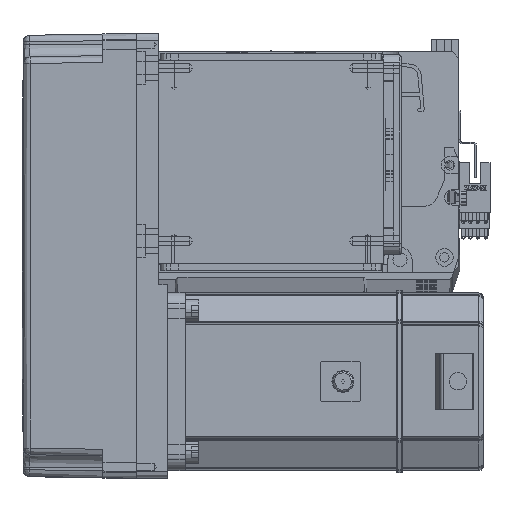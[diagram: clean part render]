
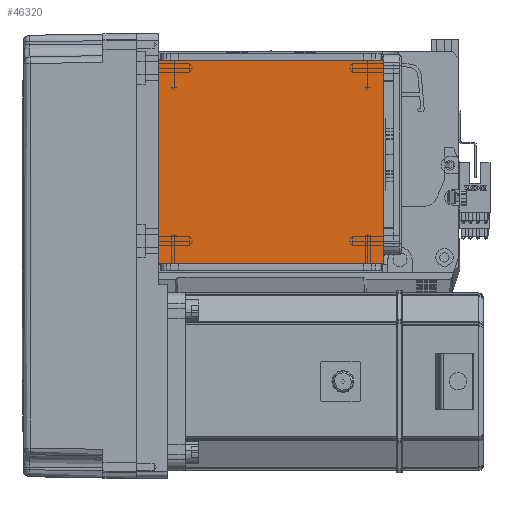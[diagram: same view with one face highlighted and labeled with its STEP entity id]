
A CAD part, top view. The second image highlights one B-rep face of the part: STEP entity #46320.
In plain terms, the highlighted planar face has unit normal (0, 0, 1).
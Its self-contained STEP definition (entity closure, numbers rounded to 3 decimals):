
#821 = LINE ( 'NONE', #69630, #29226 ) ;
#1015 = ORIENTED_EDGE ( 'NONE', *, *, #49851, .T. ) ;
#3757 = EDGE_CURVE ( 'NONE', #65342, #61236, #19986, .T. ) ;
#3800 = DIRECTION ( 'NONE',  ( 0., 1., 0. ) ) ;
#4756 = CARTESIAN_POINT ( 'NONE',  ( -50.5, 111.5, 115. ) ) ;
#7929 = LINE ( 'NONE', #42405, #13991 ) ;
#8192 = EDGE_CURVE ( 'NONE', #65342, #22361, #7929, .T. ) ;
#11988 = FACE_OUTER_BOUND ( 'NONE', #48849, .T. ) ;
#12349 = DIRECTION ( 'NONE',  ( -1., 0., 0. ) ) ;
#13991 = VECTOR ( 'NONE', #3800, 1000. ) ;
#16569 = DIRECTION ( 'NONE',  ( 0., -1., 0. ) ) ;
#19986 = LINE ( 'NONE', #67973, #65657 ) ;
#21415 = CARTESIAN_POINT ( 'NONE',  ( 50.5, 20., 115. ) ) ;
#21849 = CARTESIAN_POINT ( 'NONE',  ( 50.5, 111.5, 115. ) ) ;
#22361 = VERTEX_POINT ( 'NONE', #21849 ) ;
#22651 = ORIENTED_EDGE ( 'NONE', *, *, #8192, .T. ) ;
#26038 = DIRECTION ( 'NONE',  ( 1., 0., 0. ) ) ;
#29226 = VECTOR ( 'NONE', #26038, 1000. ) ;
#29685 = AXIS2_PLACEMENT_3D ( 'NONE', #58477, #47675, #31280 ) ;
#31280 = DIRECTION ( 'NONE',  ( 1., 0., 0. ) ) ;
#36501 = VECTOR ( 'NONE', #16569, 1000. ) ;
#39061 = LINE ( 'NONE', #66156, #36501 ) ;
#39899 = CARTESIAN_POINT ( 'NONE',  ( -50.5, 20., 115. ) ) ;
#42405 = CARTESIAN_POINT ( 'NONE',  ( 50.5, 122., 115. ) ) ;
#46320 = ADVANCED_FACE ( 'NONE', ( #11988 ), #64266, .T. ) ;
#47675 = DIRECTION ( 'NONE',  ( 0., 0., 1. ) ) ;
#48575 = ORIENTED_EDGE ( 'NONE', *, *, #55030, .F. ) ;
#48849 = EDGE_LOOP ( 'NONE', ( #48575, #1015, #51528, #22651 ) ) ;
#49851 = EDGE_CURVE ( 'NONE', #54144, #61236, #39061, .T. ) ;
#51528 = ORIENTED_EDGE ( 'NONE', *, *, #3757, .F. ) ;
#54144 = VERTEX_POINT ( 'NONE', #4756 ) ;
#55030 = EDGE_CURVE ( 'NONE', #54144, #22361, #821, .T. ) ;
#58477 = CARTESIAN_POINT ( 'NONE',  ( 0., 0., 115. ) ) ;
#61236 = VERTEX_POINT ( 'NONE', #39899 ) ;
#64266 = PLANE ( 'NONE',  #29685 ) ;
#65342 = VERTEX_POINT ( 'NONE', #21415 ) ;
#65657 = VECTOR ( 'NONE', #12349, 1000. ) ;
#66156 = CARTESIAN_POINT ( 'NONE',  ( -50.5, 122., 115. ) ) ;
#67973 = CARTESIAN_POINT ( 'NONE',  ( -70.004, 20., 115. ) ) ;
#69630 = CARTESIAN_POINT ( 'NONE',  ( -70.004, 111.5, 115. ) ) ;
